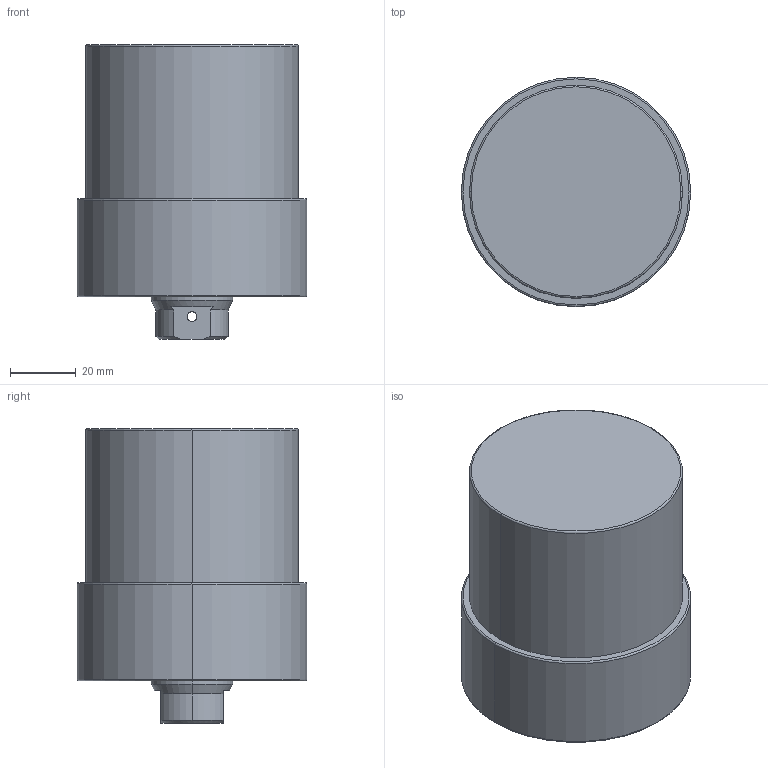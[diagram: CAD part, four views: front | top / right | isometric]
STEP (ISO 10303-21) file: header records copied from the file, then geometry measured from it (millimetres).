
FILE_DESCRIPTION (( 'STEP AP203' ), '1' );
FILE_NAME ('CLLU-065GB-030.STEP', '2020-01-06T08:41:34', ( '' ), ( '' ), 'SwSTEP 2.0', 'SolidWorks 2015', '' );
FILE_SCHEMA (( 'CONFIG_CONTROL_DESIGN' ));
Length unit declared in the file: millimetre
Products named in the file (1): CLLU-065GB-030
Bounding box: 70 x 70 x 90 mm (x, y, z)
Volume: 271888.2 mm3; surface area: 26818 mm2
Topology: 1 solids, 1 shells, 68 faces, 157 edges, 90 vertices
Faces by surface type: cylinder 27, cone 25, plane 10, torus 6
Entity records: 2051 total; most frequent: CARTESIAN_POINT 438, DIRECTION 352, ORIENTED_EDGE 294, AXIS2_PLACEMENT_3D 148, EDGE_CURVE 147, VERTEX_POINT 90, EDGE_LOOP 81, CIRCLE 79
